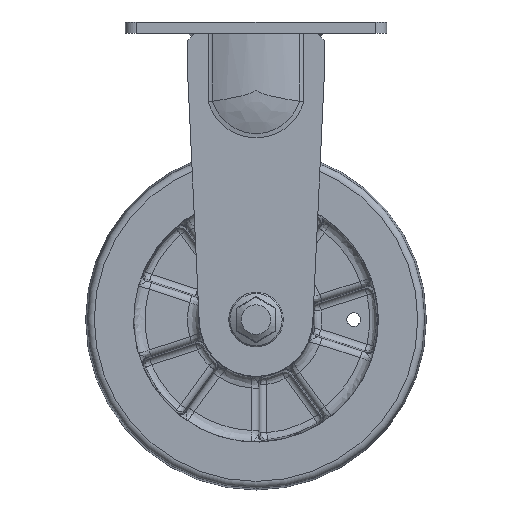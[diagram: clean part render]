
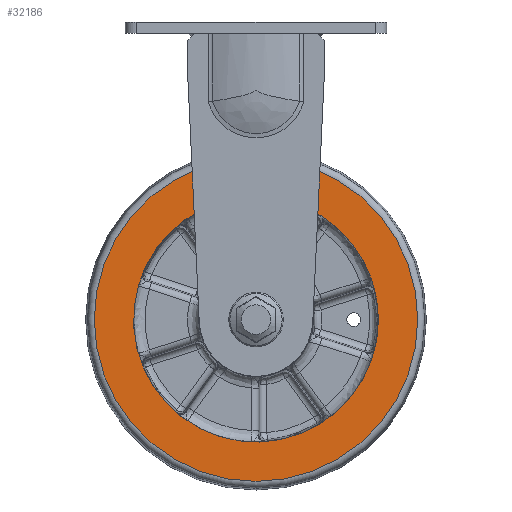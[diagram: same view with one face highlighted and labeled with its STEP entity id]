
A CAD part, front view. The second image highlights one B-rep face of the part: STEP entity #32186.
In plain terms, the highlighted planar face has unit normal (0, -1, 0).
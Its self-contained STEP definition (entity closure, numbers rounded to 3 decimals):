
#7743=CARTESIAN_POINT('',(-71.207,-20.,-128.5));
#7744=VERTEX_POINT('',#7743);
#7745=CARTESIAN_POINT('',(0.,-20.,-128.5));
#7746=DIRECTION('',(0.0,1.0,0.0));
#7747=DIRECTION('',(-1.0,0.0,0.0));
#7748=AXIS2_PLACEMENT_3D('',#7745,#7746,#7747);
#7749=CIRCLE('',#7748,71.207);
#7750=EDGE_CURVE('',#7744,#7744,#7749,.T.);
#7983=CARTESIAN_POINT('',(53.9,-20.,-128.5));
#7984=VERTEX_POINT('',#7983);
#7985=CARTESIAN_POINT('',(0.,-20.,-128.5));
#7986=DIRECTION('',(0.0,1.0,0.0));
#7987=DIRECTION('',(-1.0,0.0,0.0));
#7988=AXIS2_PLACEMENT_3D('',#7985,#7986,#7987);
#7989=CIRCLE('',#7988,53.9);
#7990=EDGE_CURVE('',#7984,#7984,#7989,.T.);
#32175=CARTESIAN_POINT('',(-57.1,-20.,-128.5));
#32176=DIRECTION('',(0.0,-1.0,0.0));
#32177=DIRECTION('',(0.0,0.0,1.0));
#32178=AXIS2_PLACEMENT_3D('',#32175,#32176,#32177);
#32179=PLANE('',#32178);
#32180=ORIENTED_EDGE('',*,*,#7750,.F.);
#32181=EDGE_LOOP('',(#32180));
#32182=FACE_OUTER_BOUND('',#32181,.T.);
#32183=ORIENTED_EDGE('',*,*,#7990,.T.);
#32184=EDGE_LOOP('',(#32183));
#32185=FACE_BOUND('',#32184,.T.);
#32186=ADVANCED_FACE('',(#32182,#32185),#32179,.T.);
